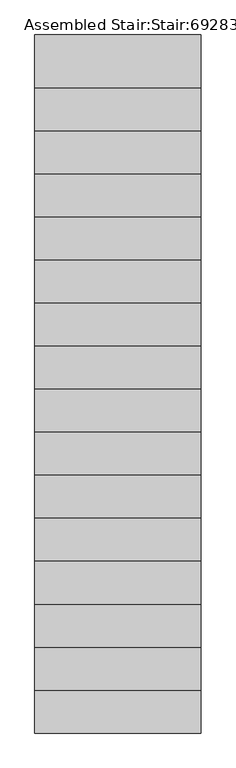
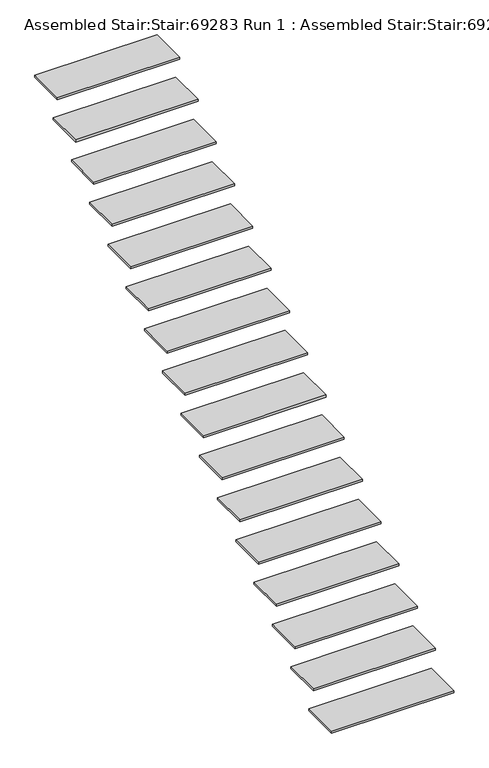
"""IFC4 building model written with IfcOpenShell, lengths in millimetres: stair geometry, Assembled Stair:Stair:69283 Run 1 : Assembled Stair:Stair:69283 Run 1."""

from ifc_helpers import new_model, si_unit, frame, origin, place, context, project, spatial, polyline, outline, extrude, source, transform, mapped, element, save


def assembled_stair_stair_69283_run_1_assembled_stair_stair_51359e1c(model_context):
    return source(origin(), model_context, "Body", "SweptSolid", [
        extrude(outline(polyline([(27349.8089026, -22024.6322236), (27349.8089026, -21754.6322236), (28199.8089026, -21754.6322236), (28199.8089026, -22024.6322236), (27349.8089026, -22024.6322236)])), frame((0.0, 0.0, 2808.5294118), z_axis=(0.0, 0.0, 1.0), x_axis=(1.0, 0.0, 0.0)), (0.0, 0.0, 1.0), 15.0),
        extrude(outline(polyline([(27349.8089026, -22244.6322236), (27349.8089026, -21974.6322236), (28199.8089026, -21974.6322236), (28199.8089026, -22244.6322236), (27349.8089026, -22244.6322236)])), frame((0.0, 0.0, 2632.0588235), z_axis=(0.0, 0.0, 1.0), x_axis=(1.0, 0.0, 0.0)), (0.0, 0.0, 1.0), 15.0),
        extrude(outline(polyline([(27349.8089026, -22464.6322236), (27349.8089026, -22194.6322236), (28199.8089026, -22194.6322236), (28199.8089026, -22464.6322236), (27349.8089026, -22464.6322236)])), frame((0.0, 0.0, 2455.5882353), z_axis=(0.0, 0.0, 1.0), x_axis=(1.0, 0.0, 0.0)), (0.0, 0.0, 1.0), 15.0),
        extrude(outline(polyline([(27349.8089026, -22684.6322236), (27349.8089026, -22414.6322236), (28199.8089026, -22414.6322236), (28199.8089026, -22684.6322236), (27349.8089026, -22684.6322236)])), frame((0.0, 0.0, 2279.1176471), z_axis=(0.0, 0.0, 1.0), x_axis=(1.0, 0.0, 0.0)), (0.0, 0.0, 1.0), 15.0),
        extrude(outline(polyline([(27349.8089026, -22904.6322236), (27349.8089026, -22634.6322236), (28199.8089026, -22634.6322236), (28199.8089026, -22904.6322236), (27349.8089026, -22904.6322236)])), frame((0.0, 0.0, 2102.6470588), z_axis=(0.0, 0.0, 1.0), x_axis=(1.0, 0.0, 0.0)), (0.0, 0.0, 1.0), 15.0),
        extrude(outline(polyline([(27349.8089026, -23124.6322236), (27349.8089026, -22854.6322236), (28199.8089026, -22854.6322236), (28199.8089026, -23124.6322236), (27349.8089026, -23124.6322236)])), frame((0.0, 0.0, 1926.1764706), z_axis=(0.0, 0.0, 1.0), x_axis=(1.0, 0.0, 0.0)), (0.0, 0.0, 1.0), 15.0),
        extrude(outline(polyline([(27349.8089026, -23344.6322236), (27349.8089026, -23074.6322236), (28199.8089026, -23074.6322236), (28199.8089026, -23344.6322236), (27349.8089026, -23344.6322236)])), frame((0.0, 0.0, 1749.7058824), z_axis=(0.0, 0.0, 1.0), x_axis=(1.0, 0.0, 0.0)), (0.0, 0.0, 1.0), 15.0),
        extrude(outline(polyline([(27349.8089026, -23564.6322236), (27349.8089026, -23294.6322236), (28199.8089026, -23294.6322236), (28199.8089026, -23564.6322236), (27349.8089026, -23564.6322236)])), frame((0.0, 0.0, 1573.2352941), z_axis=(0.0, 0.0, 1.0), x_axis=(1.0, 0.0, 0.0)), (0.0, 0.0, 1.0), 15.0),
        extrude(outline(polyline([(27349.8089026, -23784.6322236), (27349.8089026, -23514.6322236), (28199.8089026, -23514.6322236), (28199.8089026, -23784.6322236), (27349.8089026, -23784.6322236)])), frame((0.0, 0.0, 1396.7647059), z_axis=(0.0, 0.0, 1.0), x_axis=(1.0, 0.0, 0.0)), (0.0, 0.0, 1.0), 15.0),
        extrude(outline(polyline([(27349.8089026, -24004.6322236), (27349.8089026, -23734.6322236), (28199.8089026, -23734.6322236), (28199.8089026, -24004.6322236), (27349.8089026, -24004.6322236)])), frame((0.0, 0.0, 1220.2941176), z_axis=(0.0, 0.0, 1.0), x_axis=(1.0, 0.0, 0.0)), (0.0, 0.0, 1.0), 15.0),
        extrude(outline(polyline([(27349.8089026, -24224.6322236), (27349.8089026, -23954.6322236), (28199.8089026, -23954.6322236), (28199.8089026, -24224.6322236), (27349.8089026, -24224.6322236)])), frame((0.0, 0.0, 1043.8235294), z_axis=(0.0, 0.0, 1.0), x_axis=(1.0, 0.0, 0.0)), (0.0, 0.0, 1.0), 15.0),
        extrude(outline(polyline([(27349.8089026, -24444.6322236), (27349.8089026, -24174.6322236), (28199.8089026, -24174.6322236), (28199.8089026, -24444.6322236), (27349.8089026, -24444.6322236)])), frame((0.0, 0.0, 867.3529412), z_axis=(0.0, 0.0, 1.0), x_axis=(1.0, 0.0, 0.0)), (0.0, 0.0, 1.0), 15.0),
        extrude(outline(polyline([(27349.8089026, -24664.6322236), (27349.8089026, -24394.6322236), (28199.8089026, -24394.6322236), (28199.8089026, -24664.6322236), (27349.8089026, -24664.6322236)])), frame((0.0, 0.0, 690.8823529), z_axis=(0.0, 0.0, 1.0), x_axis=(1.0, 0.0, 0.0)), (0.0, 0.0, 1.0), 15.0),
        extrude(outline(polyline([(27349.8089026, -24884.6322236), (27349.8089026, -24614.6322236), (28199.8089026, -24614.6322236), (28199.8089026, -24884.6322236), (27349.8089026, -24884.6322236)])), frame((0.0, 0.0, 514.4117647), z_axis=(0.0, 0.0, 1.0), x_axis=(1.0, 0.0, 0.0)), (0.0, 0.0, 1.0), 15.0),
        extrude(outline(polyline([(27349.8089026, -25104.6322236), (27349.8089026, -24834.6322236), (28199.8089026, -24834.6322236), (28199.8089026, -25104.6322236), (27349.8089026, -25104.6322236)])), frame((0.0, 0.0, 337.9411765), z_axis=(0.0, 0.0, 1.0), x_axis=(1.0, 0.0, 0.0)), (0.0, 0.0, 1.0), 15.0),
        extrude(outline(polyline([(27349.8089026, -25324.6322236), (27349.8089026, -25054.6322236), (28199.8089026, -25054.6322236), (28199.8089026, -25324.6322236), (27349.8089026, -25324.6322236)])), frame((0.0, 0.0, 161.4705882), z_axis=(0.0, 0.0, 1.0), x_axis=(1.0, 0.0, 0.0)), (0.0, 0.0, 1.0), 15.0),
    ])


if __name__ == "__main__":
    model = new_model("IFC4")
    model_context = context("Model", 3, world=origin())
    ifc_project = project(units=[si_unit("LENGTHUNIT", "METRE", prefix="MILLI")], contexts=[model_context])
    site = spatial("IfcSite", under=ifc_project)
    building = spatial("IfcBuilding", under=site)
    placement = place(None, origin())
    assembled_stair_stair_69283_run_1_assembled_stair_stair_shape = assembled_stair_stair_69283_run_1_assembled_stair_stair_51359e1c(model_context)
    element("IfcStair", 1, ObjectType="Assembled Stair:Stair:69283 Run 1 : Assembled Stair:Stair:69283 Run 1", at=placement, inside=building, context=model_context, shape_type="MappedRepresentation", body=[
        mapped(assembled_stair_stair_69283_run_1_assembled_stair_stair_shape, transform((0.0, 0.0, 0.0), x_axis=(1.0, 0.0, 0.0), y_axis=(0.0, 1.0, 0.0), z_axis=(0.0, 0.0, 1.0))),
    ])
    save(model, "model.ifc")
